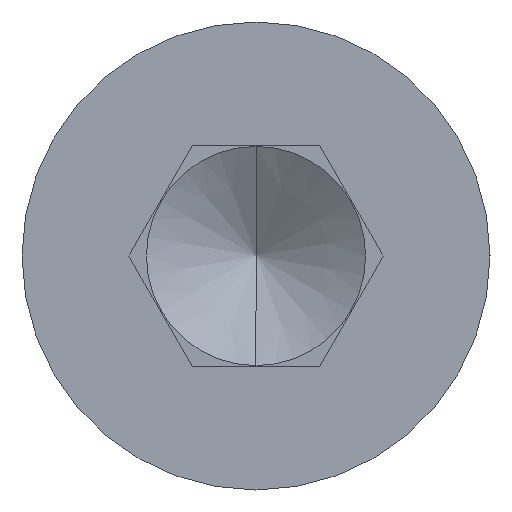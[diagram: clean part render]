
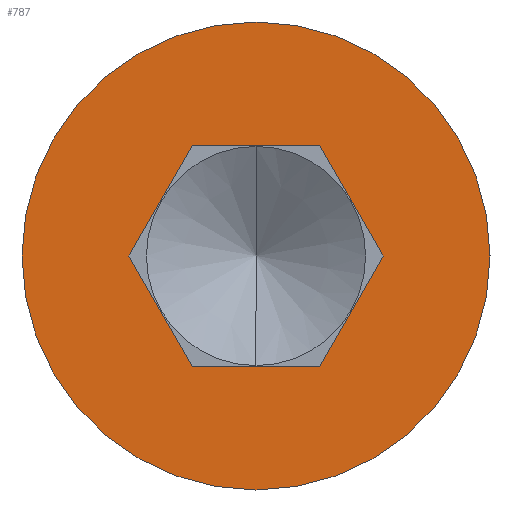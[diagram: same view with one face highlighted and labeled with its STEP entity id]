
A CAD part, left-side view. The second image highlights one B-rep face of the part: STEP entity #787.
In plain terms, the highlighted planar face has unit normal (-1, 0, 0).
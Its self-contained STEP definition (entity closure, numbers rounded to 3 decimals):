
#11 = LINE ( 'NONE', #448, #484 ) ;
#22 = FACE_OUTER_BOUND ( 'NONE', #662, .T. ) ;
#42 = PLANE ( 'NONE',  #230 ) ;
#72 = EDGE_CURVE ( 'NONE', #196, #670, #294, .T. ) ;
#76 = AXIS2_PLACEMENT_3D ( 'NONE', #85, #506, #141 ) ;
#83 = ORIENTED_EDGE ( 'NONE', *, *, #167, .T. ) ;
#85 = CARTESIAN_POINT ( 'NONE',  ( -5., 0., 0. ) ) ;
#110 = DIRECTION ( 'NONE',  ( 0., 0.5, 0.866 ) ) ;
#118 = VECTOR ( 'NONE', #259, 1000. ) ;
#122 = LINE ( 'NONE', #696, #734 ) ;
#131 = ORIENTED_EDGE ( 'NONE', *, *, #490, .T. ) ;
#138 = DIRECTION ( 'NONE',  ( 0., -1., 0. ) ) ;
#141 = DIRECTION ( 'NONE',  ( 0., 0., 1. ) ) ;
#167 = EDGE_CURVE ( 'NONE', #380, #643, #239, .T. ) ;
#182 = ORIENTED_EDGE ( 'NONE', *, *, #666, .T. ) ;
#187 = VERTEX_POINT ( 'NONE', #503 ) ;
#196 = VERTEX_POINT ( 'NONE', #330 ) ;
#203 = CARTESIAN_POINT ( 'NONE',  ( -5., -1.155, 2. ) ) ;
#212 = VECTOR ( 'NONE', #138, 1000. ) ;
#230 = AXIS2_PLACEMENT_3D ( 'NONE', #716, #351, #779 ) ;
#237 = LINE ( 'NONE', #469, #704 ) ;
#239 = LINE ( 'NONE', #385, #212 ) ;
#245 = ORIENTED_EDGE ( 'NONE', *, *, #608, .F. ) ;
#248 = FACE_BOUND ( 'NONE', #312, .T. ) ;
#259 = DIRECTION ( 'NONE',  ( 0., -0.5, -0.866 ) ) ;
#263 = VECTOR ( 'NONE', #706, 1000. ) ;
#265 = CARTESIAN_POINT ( 'NONE',  ( -5., 1.155, -2. ) ) ;
#273 = CARTESIAN_POINT ( 'NONE',  ( -5., 0., 0. ) ) ;
#294 = CIRCLE ( 'NONE', #436, 4.25 ) ;
#307 = ORIENTED_EDGE ( 'NONE', *, *, #323, .T. ) ;
#312 = EDGE_LOOP ( 'NONE', ( #182, #798, #425, #83, #307, #131 ) ) ;
#319 = CARTESIAN_POINT ( 'NONE',  ( -5., -1.155, 2. ) ) ;
#323 = EDGE_CURVE ( 'NONE', #643, #433, #742, .T. ) ;
#325 = CARTESIAN_POINT ( 'NONE',  ( -5., 1.155, 2. ) ) ;
#329 = CARTESIAN_POINT ( 'NONE',  ( -5., 0., -4.25 ) ) ;
#330 = CARTESIAN_POINT ( 'NONE',  ( -5., 0., 4.25 ) ) ;
#351 = DIRECTION ( 'NONE',  ( -1., 0., 0. ) ) ;
#380 = VERTEX_POINT ( 'NONE', #325 ) ;
#385 = CARTESIAN_POINT ( 'NONE',  ( -5., 2.125, 2. ) ) ;
#391 = DIRECTION ( 'NONE',  ( 0., 1., 0. ) ) ;
#407 = VERTEX_POINT ( 'NONE', #265 ) ;
#425 = ORIENTED_EDGE ( 'NONE', *, *, #675, .T. ) ;
#428 = CIRCLE ( 'NONE', #76, 4.25 ) ;
#433 = VERTEX_POINT ( 'NONE', #571 ) ;
#436 = AXIS2_PLACEMENT_3D ( 'NONE', #273, #641, #449 ) ;
#448 = CARTESIAN_POINT ( 'NONE',  ( -5., 2.309, 0. ) ) ;
#449 = DIRECTION ( 'NONE',  ( 0., 0., 1. ) ) ;
#469 = CARTESIAN_POINT ( 'NONE',  ( -5., 1.155, -2. ) ) ;
#471 = ORIENTED_EDGE ( 'NONE', *, *, #72, .F. ) ;
#484 = VECTOR ( 'NONE', #513, 1000. ) ;
#490 = EDGE_CURVE ( 'NONE', #433, #187, #737, .T. ) ;
#503 = CARTESIAN_POINT ( 'NONE',  ( -5., -1.155, -2. ) ) ;
#506 = DIRECTION ( 'NONE',  ( 1., 0., 0. ) ) ;
#513 = DIRECTION ( 'NONE',  ( 0., -0.5, 0.866 ) ) ;
#571 = CARTESIAN_POINT ( 'NONE',  ( -5., -2.309, 0. ) ) ;
#608 = EDGE_CURVE ( 'NONE', #670, #196, #428, .T. ) ;
#641 = DIRECTION ( 'NONE',  ( 1., 0., 0. ) ) ;
#643 = VERTEX_POINT ( 'NONE', #203 ) ;
#652 = CARTESIAN_POINT ( 'NONE',  ( -5., -2.309, 0. ) ) ;
#662 = EDGE_LOOP ( 'NONE', ( #471, #245 ) ) ;
#666 = EDGE_CURVE ( 'NONE', #187, #407, #122, .T. ) ;
#670 = VERTEX_POINT ( 'NONE', #329 ) ;
#675 = EDGE_CURVE ( 'NONE', #784, #380, #11, .T. ) ;
#696 = CARTESIAN_POINT ( 'NONE',  ( -5., 2.125, -2. ) ) ;
#704 = VECTOR ( 'NONE', #110, 1000. ) ;
#706 = DIRECTION ( 'NONE',  ( 0., 0.5, -0.866 ) ) ;
#716 = CARTESIAN_POINT ( 'NONE',  ( -5., 2.125, 0. ) ) ;
#734 = VECTOR ( 'NONE', #391, 1000. ) ;
#737 = LINE ( 'NONE', #652, #263 ) ;
#742 = LINE ( 'NONE', #319, #118 ) ;
#773 = CARTESIAN_POINT ( 'NONE',  ( -5., 2.309, 0. ) ) ;
#779 = DIRECTION ( 'NONE',  ( 0., 0., 1. ) ) ;
#784 = VERTEX_POINT ( 'NONE', #773 ) ;
#787 = ADVANCED_FACE ( 'NONE', ( #248, #22 ), #42, .T. ) ;
#797 = EDGE_CURVE ( 'NONE', #407, #784, #237, .T. ) ;
#798 = ORIENTED_EDGE ( 'NONE', *, *, #797, .T. ) ;
